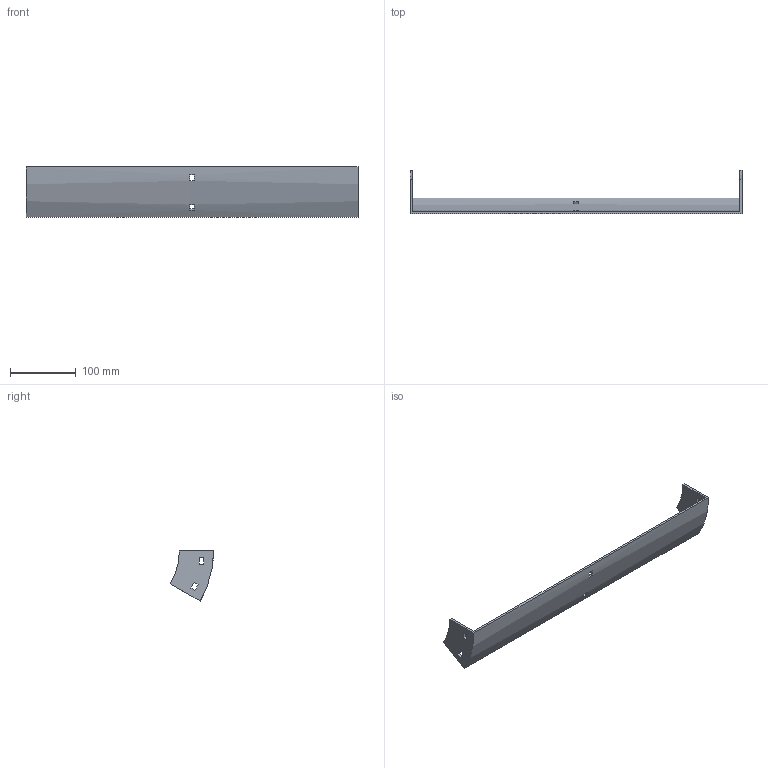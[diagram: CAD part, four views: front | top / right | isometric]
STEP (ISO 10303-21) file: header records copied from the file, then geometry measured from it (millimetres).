
FILE_DESCRIPTION (( 'STEP AP214' ), '1' );
FILE_NAME ('32B1B500.step', '2025-02-21T09:43:41', ( '' ), ( '' ), 'SwSTEP 2.0', 'SolidWorks 2023', '' );
FILE_SCHEMA (( 'AUTOMOTIVE_DESIGN' ));
Length unit declared in the file: millimetre
Products named in the file (1): 32B1B500
Bounding box: 504 x 65.4 x 76 mm (x, y, z)
Volume: 159470 mm3; surface area: 96400 mm2
Topology: 1 solids, 1 shells, 34 faces, 96 edges, 64 vertices
Faces by surface type: plane 30, cylinder 4
Entity records: 1143 total; most frequent: CARTESIAN_POINT 195, ORIENTED_EDGE 192, DIRECTION 182, EDGE_CURVE 96, VECTOR 80, LINE 80, VERTEX_POINT 64, AXIS2_PLACEMENT_3D 51
